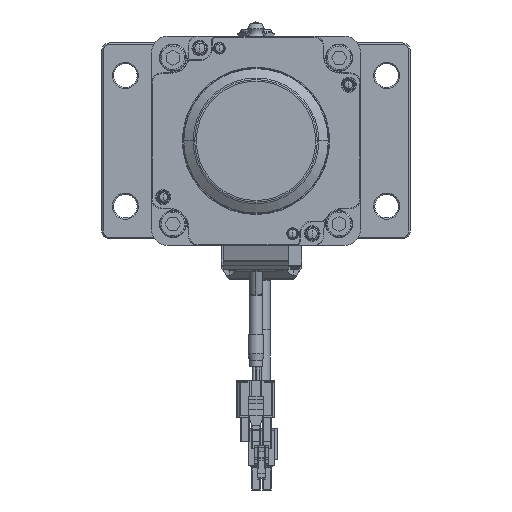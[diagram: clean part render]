
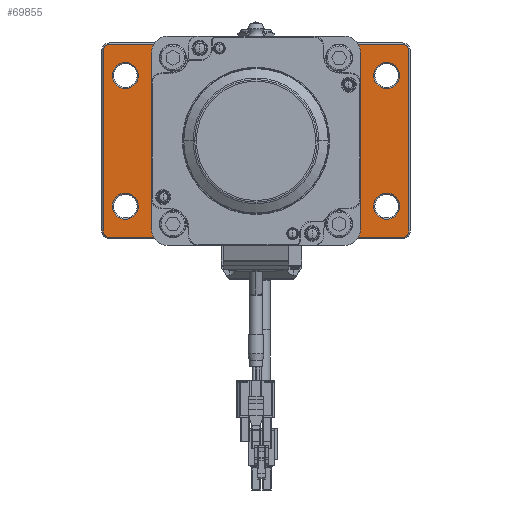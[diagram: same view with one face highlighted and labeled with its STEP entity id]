
A CAD part, front view. The second image highlights one B-rep face of the part: STEP entity #69855.
In plain terms, the highlighted planar face has unit normal (0, -1, 0).
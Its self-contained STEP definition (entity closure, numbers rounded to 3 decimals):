
#68522=CARTESIAN_POINT('',(0.,-6.,0.));
#68523=DIRECTION('',(0.,1.,0.));
#68524=DIRECTION('',(-1.,0.,0.));
#68525=AXIS2_PLACEMENT_3D('',#68522,#68523,#68524);
#68527=CARTESIAN_POINT('',(0.,-6.,0.));
#68528=DIRECTION('',(0.,1.,0.));
#68529=DIRECTION('',(1.,0.,0.));
#68530=AXIS2_PLACEMENT_3D('',#68527,#68528,#68529);
#68532=CARTESIAN_POINT('',(-50.,-6.,25.));
#68533=DIRECTION('',(0.,1.,0.));
#68534=DIRECTION('',(1.,0.,0.));
#68535=AXIS2_PLACEMENT_3D('',#68532,#68533,#68534);
#68537=CARTESIAN_POINT('',(-50.,-6.,25.));
#68538=DIRECTION('',(0.,1.,0.));
#68539=DIRECTION('',(-1.,0.,0.));
#68540=AXIS2_PLACEMENT_3D('',#68537,#68538,#68539);
#68542=CARTESIAN_POINT('',(50.,-6.,25.));
#68543=DIRECTION('',(0.,1.,0.));
#68544=DIRECTION('',(1.,0.,0.));
#68545=AXIS2_PLACEMENT_3D('',#68542,#68543,#68544);
#68547=CARTESIAN_POINT('',(50.,-6.,25.));
#68548=DIRECTION('',(0.,1.,0.));
#68549=DIRECTION('',(-1.,0.,0.));
#68550=AXIS2_PLACEMENT_3D('',#68547,#68548,#68549);
#68552=CARTESIAN_POINT('',(50.,-6.,-25.));
#68553=DIRECTION('',(0.,1.,0.));
#68554=DIRECTION('',(1.,0.,0.));
#68555=AXIS2_PLACEMENT_3D('',#68552,#68553,#68554);
#68557=CARTESIAN_POINT('',(50.,-6.,-25.));
#68558=DIRECTION('',(0.,1.,0.));
#68559=DIRECTION('',(-1.,0.,0.));
#68560=AXIS2_PLACEMENT_3D('',#68557,#68558,#68559);
#68562=CARTESIAN_POINT('',(-50.,-6.,-25.));
#68563=DIRECTION('',(0.,1.,0.));
#68564=DIRECTION('',(1.,0.,0.));
#68565=AXIS2_PLACEMENT_3D('',#68562,#68563,#68564);
#68567=CARTESIAN_POINT('',(-50.,-6.,-25.));
#68568=DIRECTION('',(0.,1.,0.));
#68569=DIRECTION('',(-1.,0.,0.));
#68570=AXIS2_PLACEMENT_3D('',#68567,#68568,#68569);
#68572=CARTESIAN_POINT('',(-56.,-6.,34.5));
#68573=DIRECTION('',(0.,-1.,0.));
#68574=DIRECTION('',(0.,0.,1.));
#68575=AXIS2_PLACEMENT_3D('',#68572,#68573,#68574);
#68577=DIRECTION('',(-1.,0.,0.));
#68578=VECTOR('',#68577,112.);
#68579=CARTESIAN_POINT('',(56.,-6.,
37.));
#68580=LINE('',#68579,#68578);
#68581=CARTESIAN_POINT('',(56.,-6.,34.5));
#68582=DIRECTION('',(0.,-1.,0.));
#68583=DIRECTION('',(1.,0.,0.));
#68584=AXIS2_PLACEMENT_3D('',#68581,#68582,#68583);
#68586=DIRECTION('',(0.,0.,1.));
#68587=VECTOR('',#68586,69.);
#68588=CARTESIAN_POINT('',(58.5,-6.,
-34.5));
#68589=LINE('',#68588,#68587);
#68590=CARTESIAN_POINT('',(56.,-6.,-34.5));
#68591=DIRECTION('',(0.,-1.,0.));
#68592=DIRECTION('',(0.,0.,-1.));
#68593=AXIS2_PLACEMENT_3D('',#68590,#68591,#68592);
#68595=DIRECTION('',(1.,0.,0.));
#68596=VECTOR('',#68595,112.);
#68597=CARTESIAN_POINT('',(-56.,-6.,
-37.));
#68598=LINE('',#68597,#68596);
#68599=CARTESIAN_POINT('',(-56.,-6.,-34.5));
#68600=DIRECTION('',(0.,-1.,0.));
#68601=DIRECTION('',(-1.,0.,0.));
#68602=AXIS2_PLACEMENT_3D('',#68599,#68600,#68601);
#68604=DIRECTION('',(0.,0.,-1.));
#68605=VECTOR('',#68604,69.);
#68606=CARTESIAN_POINT('',(-58.5,-6.,
34.5));
#68607=LINE('',#68606,#68605);
#68608=CARTESIAN_POINT('',(28.25,-6.,-28.25));
#68609=DIRECTION('',(0.,1.,0.));
#68610=DIRECTION('',(1.,0.,0.));
#68611=AXIS2_PLACEMENT_3D('',#68608,#68609,#68610);
#68613=CARTESIAN_POINT('',(28.25,-6.,-28.25));
#68614=DIRECTION('',(0.,1.,0.));
#68615=DIRECTION('',(-1.,0.,0.));
#68616=AXIS2_PLACEMENT_3D('',#68613,#68614,#68615);
#68618=CARTESIAN_POINT('',(-28.25,-6.,-28.25));
#68619=DIRECTION('',(0.,1.,0.));
#68620=DIRECTION('',(1.,0.,0.));
#68621=AXIS2_PLACEMENT_3D('',#68618,#68619,#68620);
#68623=CARTESIAN_POINT('',(-28.25,-6.,-28.25));
#68624=DIRECTION('',(0.,1.,0.));
#68625=DIRECTION('',(-1.,0.,0.));
#68626=AXIS2_PLACEMENT_3D('',#68623,#68624,#68625);
#68628=CARTESIAN_POINT('',(28.25,-6.,28.25));
#68629=DIRECTION('',(0.,1.,0.));
#68630=DIRECTION('',(1.,0.,0.));
#68631=AXIS2_PLACEMENT_3D('',#68628,#68629,#68630);
#68633=CARTESIAN_POINT('',(28.25,-6.,28.25));
#68634=DIRECTION('',(0.,1.,0.));
#68635=DIRECTION('',(-1.,0.,0.));
#68636=AXIS2_PLACEMENT_3D('',#68633,#68634,#68635);
#68638=CARTESIAN_POINT('',(-28.25,-6.,28.25));
#68639=DIRECTION('',(0.,1.,0.));
#68640=DIRECTION('',(1.,0.,0.));
#68641=AXIS2_PLACEMENT_3D('',#68638,#68639,#68640);
#68643=CARTESIAN_POINT('',(-28.25,-6.,28.25));
#68644=DIRECTION('',(0.,1.,0.));
#68645=DIRECTION('',(-1.,0.,0.));
#68646=AXIS2_PLACEMENT_3D('',#68643,#68644,#68645);
#69530=CARTESIAN_POINT('',(-28.25,-6.,0.));
#69531=CARTESIAN_POINT('',(28.25,-6.,0.));
#69532=VERTEX_POINT('',#69530);
#69533=VERTEX_POINT('',#69531);
#69570=CARTESIAN_POINT('',(-45.,-6.,25.));
#69571=CARTESIAN_POINT('',(-55.,-6.,25.));
#69572=VERTEX_POINT('',#69570);
#69573=VERTEX_POINT('',#69571);
#69578=CARTESIAN_POINT('',(55.,-6.,25.));
#69579=CARTESIAN_POINT('',(45.,-6.,25.));
#69580=VERTEX_POINT('',#69578);
#69581=VERTEX_POINT('',#69579);
#69586=CARTESIAN_POINT('',(55.,-6.,-25.));
#69587=CARTESIAN_POINT('',(45.,-6.,-25.));
#69588=VERTEX_POINT('',#69586);
#69589=VERTEX_POINT('',#69587);
#69594=CARTESIAN_POINT('',(-45.,-6.,-25.));
#69595=CARTESIAN_POINT('',(-55.,-6.,-25.));
#69596=VERTEX_POINT('',#69594);
#69597=VERTEX_POINT('',#69595);
#69602=CARTESIAN_POINT('',(-56.,-6.,37.));
#69603=CARTESIAN_POINT('',(-58.5,-6.,34.5));
#69604=VERTEX_POINT('',#69602);
#69605=VERTEX_POINT('',#69603);
#69610=CARTESIAN_POINT('',(-58.5,-6.,
-34.5));
#69611=VERTEX_POINT('',#69610);
#69614=CARTESIAN_POINT('',(-56.,-6.,-37.));
#69615=VERTEX_POINT('',#69614);
#69618=CARTESIAN_POINT('',(56.,-6.,
-37.));
#69619=VERTEX_POINT('',#69618);
#69622=CARTESIAN_POINT('',(58.5,-6.,-34.5));
#69623=VERTEX_POINT('',#69622);
#69626=CARTESIAN_POINT('',(58.5,-6.,
34.5));
#69627=VERTEX_POINT('',#69626);
#69630=CARTESIAN_POINT('',(56.,-6.,37.));
#69631=VERTEX_POINT('',#69630);
#69682=CARTESIAN_POINT('',(33.05,-6.,-28.25));
#69683=CARTESIAN_POINT('',(23.45,-6.,-28.25));
#69684=VERTEX_POINT('',#69682);
#69685=VERTEX_POINT('',#69683);
#69690=CARTESIAN_POINT('',(-23.45,-6.,-28.25));
#69691=CARTESIAN_POINT('',(-33.05,-6.,-28.25));
#69692=VERTEX_POINT('',#69690);
#69693=VERTEX_POINT('',#69691);
#69698=CARTESIAN_POINT('',(33.05,-6.,28.25));
#69699=CARTESIAN_POINT('',(23.45,-6.,28.25));
#69700=VERTEX_POINT('',#69698);
#69701=VERTEX_POINT('',#69699);
#69706=CARTESIAN_POINT('',(-23.45,-6.,28.25));
#69707=CARTESIAN_POINT('',(-33.05,-6.,28.25));
#69708=VERTEX_POINT('',#69706);
#69709=VERTEX_POINT('',#69707);
#69778=CARTESIAN_POINT('',(0.,-6.,0.));
#69779=DIRECTION('',(0.,1.,0.));
#69780=DIRECTION('',(1.,0.,0.));
#69781=AXIS2_PLACEMENT_3D('',#69778,#69779,#69780);
#69782=PLANE('',#69781);
#69784=ORIENTED_EDGE('',*,*,#69783,.F.);
#69786=ORIENTED_EDGE('',*,*,#69785,.F.);
#69788=ORIENTED_EDGE('',*,*,#69787,.F.);
#69790=ORIENTED_EDGE('',*,*,#69789,.F.);
#69792=ORIENTED_EDGE('',*,*,#69791,.F.);
#69794=ORIENTED_EDGE('',*,*,#69793,.F.);
#69796=ORIENTED_EDGE('',*,*,#69795,.F.);
#69798=ORIENTED_EDGE('',*,*,#69797,.F.);
#69799=EDGE_LOOP('',(#69784,#69786,#69788,#69790,#69792,#69794,#69796,#69798));
#69800=FACE_OUTER_BOUND('',#69799,.F.);
#69802=ORIENTED_EDGE('',*,*,#69801,.F.);
#69804=ORIENTED_EDGE('',*,*,#69803,.F.);
#69805=EDGE_LOOP('',(#69802,#69804));
#69806=FACE_BOUND('',#69805,.F.);
#69808=ORIENTED_EDGE('',*,*,#69807,.F.);
#69810=ORIENTED_EDGE('',*,*,#69809,.F.);
#69811=EDGE_LOOP('',(#69808,#69810));
#69812=FACE_BOUND('',#69811,.F.);
#69814=ORIENTED_EDGE('',*,*,#69813,.F.);
#69816=ORIENTED_EDGE('',*,*,#69815,.F.);
#69817=EDGE_LOOP('',(#69814,#69816));
#69818=FACE_BOUND('',#69817,.F.);
#69820=ORIENTED_EDGE('',*,*,#69819,.F.);
#69822=ORIENTED_EDGE('',*,*,#69821,.F.);
#69823=EDGE_LOOP('',(#69820,#69822));
#69824=FACE_BOUND('',#69823,.F.);
#69826=ORIENTED_EDGE('',*,*,#69825,.F.);
#69828=ORIENTED_EDGE('',*,*,#69827,.F.);
#69829=EDGE_LOOP('',(#69826,#69828));
#69830=FACE_BOUND('',#69829,.F.);
#69832=ORIENTED_EDGE('',*,*,#69831,.F.);
#69834=ORIENTED_EDGE('',*,*,#69833,.F.);
#69835=EDGE_LOOP('',(#69832,#69834));
#69836=FACE_BOUND('',#69835,.F.);
#69838=ORIENTED_EDGE('',*,*,#69837,.F.);
#69840=ORIENTED_EDGE('',*,*,#69839,.F.);
#69841=EDGE_LOOP('',(#69838,#69840));
#69842=FACE_BOUND('',#69841,.F.);
#69844=ORIENTED_EDGE('',*,*,#69843,.F.);
#69846=ORIENTED_EDGE('',*,*,#69845,.F.);
#69847=EDGE_LOOP('',(#69844,#69846));
#69848=FACE_BOUND('',#69847,.F.);
#69850=ORIENTED_EDGE('',*,*,#69849,.F.);
#69852=ORIENTED_EDGE('',*,*,#69851,.F.);
#69853=EDGE_LOOP('',(#69850,#69852));
#69854=FACE_BOUND('',#69853,.F.);
#69855=ADVANCED_FACE('',(#69800,#69806,#69812,#69818,#69824,#69830,#69836,
#69842,#69848,#69854),#69782,.F.);
#68526=CIRCLE('',#68525,28.25);
#68531=CIRCLE('',#68530,28.25);
#68536=CIRCLE('',#68535,5.);
#68541=CIRCLE('',#68540,5.);
#68546=CIRCLE('',#68545,5.);
#68551=CIRCLE('',#68550,5.);
#68556=CIRCLE('',#68555,5.);
#68561=CIRCLE('',#68560,5.);
#68566=CIRCLE('',#68565,5.);
#68571=CIRCLE('',#68570,5.);
#68576=CIRCLE('',#68575,2.5);
#68585=CIRCLE('',#68584,2.5);
#68594=CIRCLE('',#68593,2.5);
#68603=CIRCLE('',#68602,2.5);
#68612=CIRCLE('',#68611,4.8);
#68617=CIRCLE('',#68616,4.8);
#68622=CIRCLE('',#68621,4.8);
#68627=CIRCLE('',#68626,4.8);
#68632=CIRCLE('',#68631,4.8);
#68637=CIRCLE('',#68636,4.8);
#68642=CIRCLE('',#68641,4.8);
#68647=CIRCLE('',#68646,4.8);
#69783=EDGE_CURVE('',#69604,#69605,#68576,.T.);
#69785=EDGE_CURVE('',#69631,#69604,#68580,.T.);
#69787=EDGE_CURVE('',#69627,#69631,#68585,.T.);
#69789=EDGE_CURVE('',#69623,#69627,#68589,.T.);
#69791=EDGE_CURVE('',#69619,#69623,#68594,.T.);
#69793=EDGE_CURVE('',#69615,#69619,#68598,.T.);
#69795=EDGE_CURVE('',#69611,#69615,#68603,.T.);
#69797=EDGE_CURVE('',#69605,#69611,#68607,.T.);
#69801=EDGE_CURVE('',#69572,#69573,#68536,.T.);
#69803=EDGE_CURVE('',#69573,#69572,#68541,.T.);
#69807=EDGE_CURVE('',#69580,#69581,#68546,.T.);
#69809=EDGE_CURVE('',#69581,#69580,#68551,.T.);
#69813=EDGE_CURVE('',#69588,#69589,#68556,.T.);
#69815=EDGE_CURVE('',#69589,#69588,#68561,.T.);
#69819=EDGE_CURVE('',#69596,#69597,#68566,.T.);
#69821=EDGE_CURVE('',#69597,#69596,#68571,.T.);
#69825=EDGE_CURVE('',#69532,#69533,#68526,.T.);
#69827=EDGE_CURVE('',#69533,#69532,#68531,.T.);
#69831=EDGE_CURVE('',#69684,#69685,#68612,.T.);
#69833=EDGE_CURVE('',#69685,#69684,#68617,.T.);
#69837=EDGE_CURVE('',#69692,#69693,#68622,.T.);
#69839=EDGE_CURVE('',#69693,#69692,#68627,.T.);
#69843=EDGE_CURVE('',#69700,#69701,#68632,.T.);
#69845=EDGE_CURVE('',#69701,#69700,#68637,.T.);
#69849=EDGE_CURVE('',#69708,#69709,#68642,.T.);
#69851=EDGE_CURVE('',#69709,#69708,#68647,.T.);
